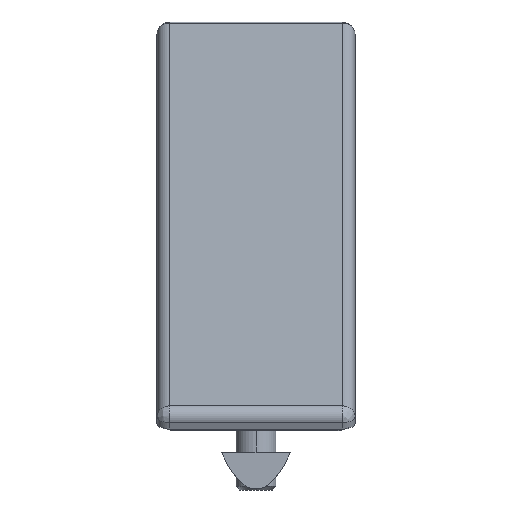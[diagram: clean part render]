
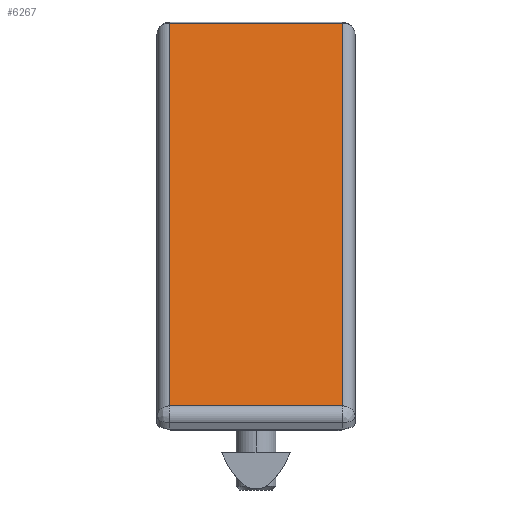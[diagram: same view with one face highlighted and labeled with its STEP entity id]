
A CAD part, front view. The second image highlights one B-rep face of the part: STEP entity #6267.
In plain terms, the highlighted planar face has unit normal (0, -0.446, 0.895).
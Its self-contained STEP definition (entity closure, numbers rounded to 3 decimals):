
#65 = DIRECTION ( 'NONE',  ( 0., -0.895, -0.446 ) ) ;
#434 = VERTEX_POINT ( 'NONE', #7930 ) ;
#501 = VERTEX_POINT ( 'NONE', #6124 ) ;
#570 = DIRECTION ( 'NONE',  ( 0., 0.895, 0.446 ) ) ;
#1124 = DIRECTION ( 'NONE',  ( -1., 0., 0. ) ) ;
#1186 = VERTEX_POINT ( 'NONE', #1816 ) ;
#1288 = CARTESIAN_POINT ( 'NONE',  ( 0., -82.985, 43.58 ) ) ;
#1388 = EDGE_CURVE ( 'NONE', #501, #434, #6582, .T. ) ;
#1473 = VECTOR ( 'NONE', #570, 1000. ) ;
#1565 = DIRECTION ( 'NONE',  ( 1., 0., 0. ) ) ;
#1816 = CARTESIAN_POINT ( 'NONE',  ( -17.5, -160.397, 4.984 ) ) ;
#2162 = CARTESIAN_POINT ( 'NONE',  ( 17.5, -164.424, 2.976 ) ) ;
#2362 = LINE ( 'NONE', #4280, #4512 ) ;
#2576 = EDGE_CURVE ( 'NONE', #5828, #1186, #2362, .T. ) ;
#2748 = ORIENTED_EDGE ( 'NONE', *, *, #4731, .F. ) ;
#3227 = LINE ( 'NONE', #5707, #1473 ) ;
#3238 = CARTESIAN_POINT ( 'NONE',  ( 17.5, -160.397, 4.984 ) ) ;
#3493 = CARTESIAN_POINT ( 'NONE',  ( -22., -5.573, 82.176 ) ) ;
#4162 = ORIENTED_EDGE ( 'NONE', *, *, #1388, .F. ) ;
#4280 = CARTESIAN_POINT ( 'NONE',  ( 22., -160.397, 4.984 ) ) ;
#4512 = VECTOR ( 'NONE', #1124, 1000. ) ;
#4731 = EDGE_CURVE ( 'NONE', #1186, #501, #3227, .T. ) ;
#4745 = VECTOR ( 'NONE', #5382, 1000. ) ;
#5382 = DIRECTION ( 'NONE',  ( 0., -0.895, -0.446 ) ) ;
#5564 = EDGE_CURVE ( 'NONE', #434, #5828, #7213, .T. ) ;
#5653 = FACE_OUTER_BOUND ( 'NONE', #6843, .T. ) ;
#5707 = CARTESIAN_POINT ( 'NONE',  ( -17.5, -1.546, 84.184 ) ) ;
#5828 = VERTEX_POINT ( 'NONE', #3238 ) ;
#6124 = CARTESIAN_POINT ( 'NONE',  ( -17.5, -5.573, 82.176 ) ) ;
#6267 = ADVANCED_FACE ( 'NONE', ( #5653 ), #6346, .T. ) ;
#6346 = PLANE ( 'NONE',  #7663 ) ;
#6582 = LINE ( 'NONE', #3493, #6708 ) ;
#6708 = VECTOR ( 'NONE', #1565, 1000. ) ;
#6843 = EDGE_LOOP ( 'NONE', ( #4162, #2748, #6882, #7908 ) ) ;
#6882 = ORIENTED_EDGE ( 'NONE', *, *, #2576, .F. ) ;
#6993 = DIRECTION ( 'NONE',  ( 0., -0.446, 0.895 ) ) ;
#7213 = LINE ( 'NONE', #2162, #4745 ) ;
#7663 = AXIS2_PLACEMENT_3D ( 'NONE', #1288, #6993, #65 ) ;
#7908 = ORIENTED_EDGE ( 'NONE', *, *, #5564, .F. ) ;
#7930 = CARTESIAN_POINT ( 'NONE',  ( 17.5, -5.573, 82.176 ) ) ;
